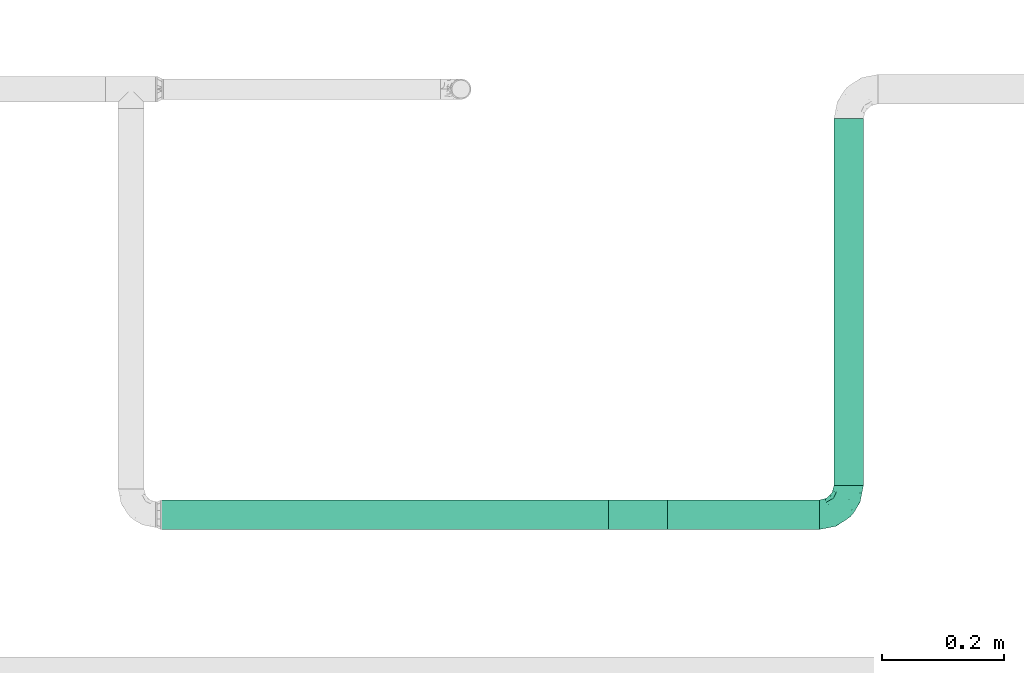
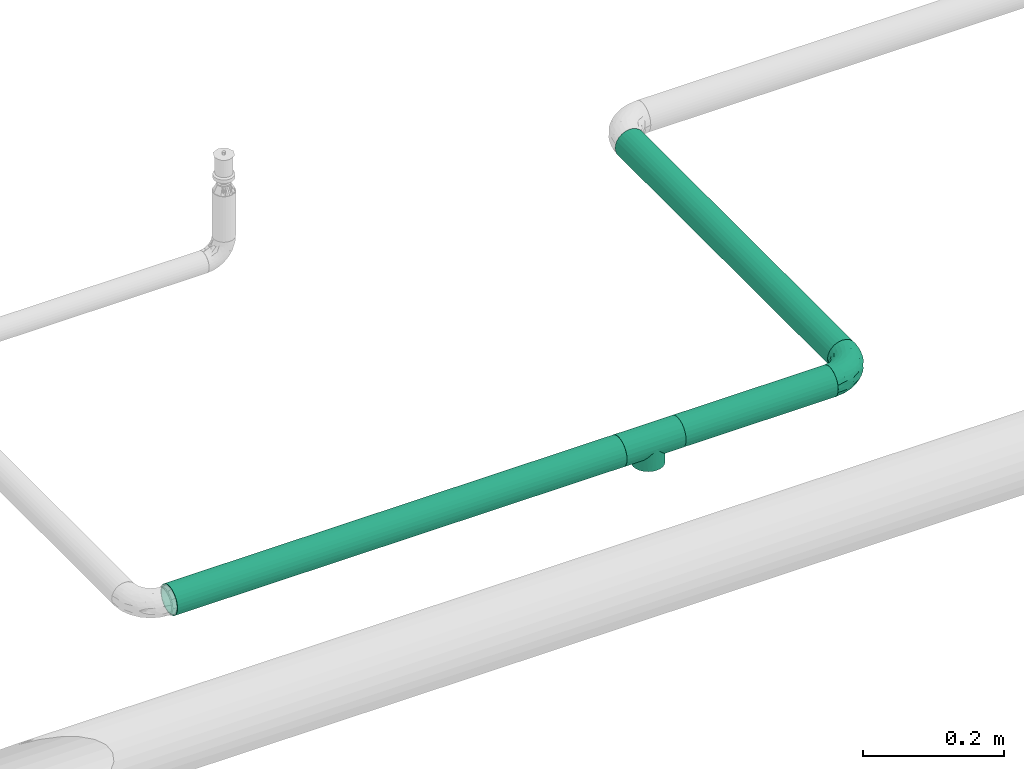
# One storey, part 5 of 94: 3 flow segments, 2 flow fittings.
"""IFC2X3 building model written with IfcOpenShell, lengths in millimetres."""

from ifc_helpers import new_model, entity, si_unit, converted_unit, derived_unit, direction, frame, origin_with_axes, origin_2d_with_axis, place, context, subcontext, project, spatial, hollow_circle, extrude, open_shell, surface_model, source, transform, mapped, type_object, element, save


model = new_model("IFC2X3")

# Units and contexts
model_context = context("Model", 3, precision=0.01, world=frame((0.0, 4.29681676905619e-09, 0.0)), true_north=direction((4.01073788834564e-13, 1.0)))
plan_context = context("Plan", 3, precision=0.01, world=frame((0.0, 4.29681676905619e-09, 0.0)), true_north=direction((4.01073788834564e-13, 1.0)))
body_context = subcontext(model_context, "Body", "Model", "MODEL_VIEW")
ifc_project = project(units=[converted_unit("PLANEANGLEUNIT", "DEGREE", entity("IfcPositiveLengthMeasure", 0.0174532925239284), si_unit("PLANEANGLEUNIT", "RADIAN"), dimensions=[0, 0, 0, 0, 0, 0, 0]), si_unit("AREAUNIT", "SQUARE_METRE"), si_unit("LENGTHUNIT", "METRE", prefix="MILLI"), si_unit("MASSUNIT", "GRAM", prefix="KILO"), si_unit("POWERUNIT", "WATT"), si_unit("PRESSUREUNIT", "PASCAL"), si_unit("FORCEUNIT", "NEWTON", prefix="KILO"), si_unit("ELECTRICCURRENTUNIT", "AMPERE"), si_unit("THERMODYNAMICTEMPERATUREUNIT", "DEGREE_CELSIUS"), si_unit("TIMEUNIT", "SECOND"), si_unit("VOLUMEUNIT", "CUBIC_METRE"), derived_unit("LINEARVELOCITYUNIT", [(si_unit("LENGTHUNIT", "METRE"), 1), (si_unit("TIMEUNIT", "SECOND"), -1)]), derived_unit("VOLUMETRICFLOWRATEUNIT", [(si_unit("VOLUMEUNIT", "CUBIC_METRE"), 1), (si_unit("TIMEUNIT", "SECOND"), -1)]), derived_unit("THERMALTRANSMITTANCEUNIT", [(si_unit("POWERUNIT", "WATT"), 1), (si_unit("THERMODYNAMICTEMPERATUREUNIT", "KELVIN"), -1), (si_unit("AREAUNIT", "SQUARE_METRE"), -1)])], contexts=[model_context, plan_context])

# Site, building, storey
site_placement = place(None, frame((0.0, -4.29681676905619e-09, 0.0), z_axis=(0.0, 0.0, 1.0), x_axis=(1.0, 0.0, 0.0)))
site = spatial("IfcSite", under=ifc_project, at=site_placement, CompositionType="ELEMENT")
building_placement = place(site_placement, frame((0.0, 4.29681676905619e-09, 0.0), z_axis=(0.0, 0.0, 1.0), x_axis=(1.0, 0.0, 0.0)))
building = spatial("IfcBuilding", under=site, at=building_placement, Name="mc-building", CompositionType="ELEMENT")
storey_placement = place(building_placement, frame((0.0, 0.0, 200300.0), z_axis=(0.0, 0.0, 1.0), x_axis=(1.0, 0.0, 0.0)))
storey = spatial("IfcBuildingStorey", under=building, at=storey_placement, Name="Nivå C", CompositionType="ELEMENT", Elevation=200300.0)

# Flow fittings
pipe_fitting_type_1 = type_object("IfcPipeFittingType", Name="magi_pipe_fe_elbow_short_001", PredefinedType="BEND")
shared_shape_1 = source(origin_with_axes(), body_context, "Body", "SurfaceModel", [
    surface_model("IfcShellBasedSurfaceModel", [(-48.4, 6.26342, -23.37541), (-48.4, 0.0, -24.2), (-48.4, 17.11198, -17.11198), (-48.4, 12.1, -20.95781), (-48.4, 23.37541, -6.26342), (-48.4, 20.95781, -12.1), (-48.4, -12.1, -20.95781), (-48.4, -17.11198, -17.11198), (-48.4, -20.95781, -12.1), (-48.4, -6.26342, -23.37541), (-48.4, -23.37541, -6.26342), (-48.4, -24.2, 0.0), (-48.4, -23.37541, 6.26342), (-48.4, 23.37541, 6.26342), (-48.4, 6.26342, 23.37541), (-48.4, 20.95781, 12.1), (-48.4, 17.11198, 17.11198), (-48.4, 12.1, 20.95781), (-48.4, -12.1, 20.95781), (-48.4, -20.95781, 12.1), (-48.4, -17.11198, 17.11198), (-48.4, -6.26342, 23.37541), (-48.4, 0.0, 24.2), (-48.4, 24.2, 0.0), (-17.11198, 48.4, -17.11198), (0.0, 48.4, -24.2), (-6.26342, 48.4, -23.37541), (-12.1, 48.4, -20.95781), (-20.95781, 48.4, -12.1), (-23.37541, 48.4, -6.26342), (12.1, 48.4, -20.95781), (20.95781, 48.4, -12.1), (17.11198, 48.4, -17.11198), (6.26342, 48.4, -23.37541), (23.37541, 48.4, -6.26342), (23.37541, 48.4, 6.26342), (24.2, 48.4, 0.0), (-23.37541, 48.4, 6.26342), (-6.26342, 48.4, 23.37541), (-17.11198, 48.4, 17.11198), (-20.95781, 48.4, 12.1), (-12.1, 48.4, 20.95781), (12.1, 48.4, 20.95781), (17.11198, 48.4, 17.11198), (20.95781, 48.4, 12.1), (0.0, 48.4, 24.2), (6.26342, 48.4, 23.37541), (-24.2, 48.4, 0.0), (-35.50368, -18.80076, 13.58523), (-31.77913, -13.9618, 18.03279), (-34.50859, -21.43683, 0.0), (-21.39243, -15.41147, 12.21413), (-32.16301, -21.12203, 7.54749), (21.12203, 32.16301, 7.54749), (17.07617, 18.95745, 6.20374), (18.67365, 20.61718, 0.0), (-23.65565, 38.62451, 10.51816), (-20.21592, 37.67665, 15.89859), (-35.56981, -9.15108, 21.77256), (-36.96985, -3.20584, 23.78612), (-33.88786, 3.70953, 24.15875), (-8.84062, -10.8048, 0.0), (-18.95745, -17.07617, 6.20374), (-20.61718, -18.67365, 0.0), (-18.69715, -5.87343, 20.10488), (-24.09336, -0.21717, 23.45593), (-2.08262, -4.09091, 10.90396), (-0.40561, 0.49936, 14.45569), (-8.22634, -5.79523, 14.90978), (-37.83027, 20.17367, 15.88169), (-8.41063, 23.79825, 24.15658), (-17.92529, 17.92529, 23.61199), (-14.40991, 10.5752, 24.07534), (-41.86919, 14.6551, 19.71874), (-9.03342, 41.7434, 22.66763), (-3.31671, 36.19978, 24.14056), (-38.63654, 23.65174, 10.51655), (-38.25939, 25.77657, 5.32075), (-30.0475, 30.0475, 9.04616), (-37.30448, 9.49113, 22.86036), (-6.31688, 16.20853, 23.76192), (-12.02449, 4.43954, 22.59792), (-2.47225, 13.07459, 22.23951), (-4.32281, 4.32281, 19.78555), (13.9618, 31.77913, 18.03279), (15.41147, 21.39243, 12.21413), (18.80076, 35.50367, 13.58523), (-25.72741, 16.42033, 22.38358), (-26.59277, 10.36599, 23.76692), (3.20584, 36.96985, 23.78612), (9.15107, 35.56981, 21.77256), (5.87343, 18.69715, 20.10488), (21.43683, 34.50859, 0.0), (-23.74657, 5.93004, 24.18967), (-22.40302, 25.55556, 19.88516), (-33.3245, 16.42738, 20.3789), (-25.47357, 39.04012, 5.19167), (-30.32947, 31.74105, 4.25904), (11.04589, 19.60124, 16.55181), (-27.44219, 36.3, 0.0), (-10.46605, 32.79159, 23.04712), (-13.80953, 25.05111, 23.26361), (-17.54489, 31.27863, 20.33941), (-19.27982, 23.42922, 22.01925), (-14.78447, 40.57947, 19.81913), (-19.60124, -11.04589, 16.55181), (-25.09785, 32.07921, 13.69695), (-25.5093, 27.02629, 17.14196), (-31.08127, 26.00324, 13.49448), (0.21717, 24.09336, 23.45593), (5.51075, 8.40547, 15.32867), (-11.48597, -10.80284, 11.35932), (1.43689, -3.14326, 6.54995), (7.34882, 4.31024, 8.4514), (7.50574, 2.51208, 3.62663), (12.46453, 10.09451, 5.71609), (12.1504, 12.55391, 10.15678), (-36.3, 27.44219, 0.0), (-6.52237, -9.62364, 7.02633), (2.93595, -2.93595, 0.0), (10.8048, 8.84062, 0.0), (-19.60124, -11.04589, -16.55181), (-31.77913, -13.9618, -18.03279), (-18.69715, -5.87343, -20.10488), (-21.39243, -15.41147, -12.21413), (-37.67665, 20.21591, -15.89859), (-40.57947, 14.78447, -19.81913), (-39.04012, 25.47357, -5.19167), (-32.16301, -21.12203, -7.54749), (-30.0475, 30.0475, -9.04616), (-38.62452, 23.65565, -10.51816), (-18.95745, -17.07617, -6.20374), (-23.42922, 19.27982, -22.01926), (-25.05111, 13.80953, -23.26361), (-31.27863, 17.54489, -20.33941), (-14.6551, 41.86919, -19.71874), (-20.17367, 37.83026, -15.88169), (9.15108, 35.56981, -21.77256), (5.87343, 18.69715, -20.10488), (0.21717, 24.09336, -23.45593), (-41.7434, 9.03342, -22.66763), (-35.50368, -18.80076, -13.58523), (-35.56981, -9.15108, -21.77256), (-16.42033, 25.72741, -22.38358), (-9.49113, 37.30447, -22.86036), (-10.36599, 26.59277, -23.76692), (-36.96985, -3.20584, -23.78612), (-23.79826, 8.41063, -24.15658), (-17.92529, 17.92529, -23.61199), (-10.5752, 14.40991, -24.07534), (-36.19978, 3.31671, -24.14056), (-25.77657, 38.25939, -5.32075), (-23.65174, 38.63654, -10.51655), (-32.79159, 10.46605, -23.04712), (-31.74105, 30.32946, -4.25904), (-5.93004, 23.74657, -24.18967), (-25.55556, 22.40302, -19.88516), (-16.42738, 33.3245, -20.3789), (3.20584, 36.96985, -23.78612), (-3.70953, 33.88785, -24.15875), (18.80076, 35.50367, -13.58523), (13.9618, 31.77913, -18.03279), (7.50574, 2.51208, -3.62663), (12.46453, 10.09451, -5.71609), (-16.20853, 6.31688, -23.76192), (-4.43954, 12.02449, -22.59792), (-13.07459, 2.47225, -22.23951), (1.43689, -3.14326, -6.54995), (-6.52237, -9.62364, -7.02632), (-2.08262, -4.09091, -10.90396), (15.41147, 21.39243, -12.21413), (21.12203, 32.16301, -7.54749), (17.07617, 18.95745, -6.20374), (-32.07921, 25.09785, -13.69695), (11.04589, 19.60124, -16.55181), (12.1504, 12.55391, -10.15678), (5.51075, 8.40547, -15.32867), (-27.02629, 25.5093, -17.14196), (-26.00324, 31.08127, -13.49448), (-24.09336, -0.21717, -23.45593), (-4.32281, 4.32281, -19.78555), (-8.22634, -5.79524, -14.90978), (-11.48597, -10.80284, -11.35931), (-0.40561, 0.49936, -14.45569), (7.34882, 4.31024, -8.4514)], [open_shell([[[0, 1, 2]], [[3, 0, 2]], [[4, 5, 2]], [[6, 2, 1]], [[4, 2, 6]], [[7, 8, 6]], [[1, 9, 6]], [[8, 10, 6]], [[6, 10, 4]], [[11, 12, 10]], [[13, 4, 10]], [[14, 13, 10]], [[15, 13, 16]], [[13, 14, 17]], [[16, 13, 17]], [[10, 18, 14]], [[19, 20, 12]], [[20, 10, 12]], [[21, 22, 18]], [[20, 18, 10]], [[18, 22, 14]], [[23, 4, 13]], [[24, 25, 26]], [[24, 26, 27]], [[24, 28, 29]], [[25, 24, 30]], [[30, 24, 29]], [[30, 31, 32]], [[30, 33, 25]], [[30, 34, 31]], [[29, 34, 30]], [[34, 35, 36]], [[34, 29, 37]], [[34, 37, 38]], [[39, 37, 40]], [[41, 38, 37]], [[41, 37, 39]], [[38, 42, 34]], [[35, 43, 44]], [[35, 34, 43]], [[42, 45, 46]], [[34, 42, 43]], [[38, 45, 42]], [[37, 29, 47]], [[20, 48, 49]], [[12, 11, 50]], [[51, 48, 52]], [[53, 54, 55]], [[48, 20, 19]], [[12, 52, 19]], [[40, 56, 57]], [[49, 18, 20]], [[49, 58, 18]], [[22, 59, 60]], [[61, 62, 63]], [[58, 64, 65]], [[66, 67, 68]], [[15, 16, 69]], [[70, 71, 72]], [[17, 73, 16]], [[21, 59, 22]], [[38, 74, 75]], [[22, 60, 14]], [[15, 69, 76]], [[16, 73, 69]], [[23, 13, 77]], [[13, 15, 76]], [[77, 76, 78]], [[14, 79, 17]], [[80, 81, 82]], [[68, 83, 64]], [[84, 43, 42]], [[85, 86, 84]], [[87, 79, 88]], [[18, 58, 21]], [[45, 89, 46]], [[53, 35, 44]], [[45, 38, 75]], [[84, 90, 91]], [[44, 86, 53]], [[92, 35, 53]], [[86, 44, 43]], [[90, 42, 46]], [[53, 55, 92]], [[88, 93, 72]], [[54, 53, 85]], [[87, 94, 95]], [[78, 96, 97]], [[98, 84, 91]], [[99, 96, 47]], [[79, 14, 60]], [[96, 78, 56]], [[62, 52, 63]], [[57, 39, 40]], [[100, 70, 75]], [[101, 102, 103]], [[12, 50, 52]], [[104, 41, 39]], [[74, 38, 41]], [[57, 102, 104]], [[105, 64, 49]], [[90, 84, 42]], [[40, 37, 56]], [[56, 106, 57]], [[102, 57, 107]], [[95, 107, 69]], [[76, 108, 78]], [[100, 101, 70]], [[89, 75, 109]], [[64, 58, 49]], [[63, 52, 50]], [[59, 58, 65]], [[105, 49, 51]], [[64, 83, 81]], [[89, 90, 46]], [[36, 35, 92]], [[109, 82, 91]], [[109, 91, 90]], [[91, 83, 110]], [[111, 68, 105]], [[66, 68, 111]], [[62, 51, 52]], [[66, 112, 113]], [[114, 115, 113]], [[98, 85, 84]], [[52, 48, 19]], [[49, 48, 51]], [[84, 86, 43]], [[53, 86, 85]], [[88, 79, 60]], [[73, 79, 95]], [[96, 56, 37]], [[78, 108, 106]], [[87, 103, 94]], [[100, 74, 104]], [[108, 69, 107]], [[78, 97, 77]], [[88, 72, 71]], [[109, 75, 70]], [[81, 72, 65]], [[70, 72, 80]], [[75, 89, 45]], [[90, 89, 109]], [[58, 59, 21]], [[60, 59, 65]], [[67, 83, 68]], [[110, 113, 116]], [[88, 60, 93]], [[87, 88, 71]], [[103, 87, 71]], [[79, 87, 95]], [[101, 103, 71]], [[94, 103, 102]], [[47, 96, 37]], [[96, 99, 97]], [[99, 117, 97]], [[97, 117, 77]], [[23, 77, 117]], [[13, 76, 77]], [[60, 65, 93]], [[65, 72, 93]], [[70, 101, 71]], [[102, 101, 100]], [[69, 108, 76]], [[106, 108, 107]], [[57, 106, 107]], [[78, 106, 56]], [[57, 104, 39]], [[100, 104, 102]], [[102, 107, 94]], [[95, 94, 107]], [[64, 81, 65]], [[82, 81, 83]], [[91, 82, 83]], [[80, 82, 109]], [[70, 80, 109]], [[81, 80, 72]], [[79, 73, 17]], [[69, 73, 95]], [[104, 74, 41]], [[75, 74, 100]], [[62, 61, 118]], [[111, 62, 118]], [[113, 115, 116]], [[119, 118, 61]], [[111, 105, 51]], [[113, 112, 114]], [[120, 55, 54]], [[68, 64, 105]], [[91, 110, 98]], [[116, 98, 110]], [[62, 111, 51]], [[66, 111, 118]], [[112, 66, 118]], [[67, 113, 110]], [[118, 119, 112]], [[114, 112, 119]], [[119, 120, 114]], [[115, 120, 54]], [[120, 115, 114]], [[116, 54, 85]], [[54, 116, 115]], [[116, 85, 98]], [[113, 67, 66]], [[83, 67, 110]], [[121, 122, 123]], [[122, 121, 124]], [[5, 125, 2]], [[2, 126, 3]], [[117, 127, 23]], [[50, 10, 128]], [[127, 129, 130]], [[128, 131, 63]], [[132, 133, 134]], [[24, 135, 136]], [[137, 138, 139]], [[3, 140, 0]], [[128, 8, 141]], [[142, 6, 9]], [[128, 63, 50]], [[5, 4, 130]], [[8, 7, 141]], [[143, 144, 145]], [[146, 9, 1]], [[147, 148, 149]], [[8, 128, 10]], [[124, 141, 122]], [[150, 1, 0]], [[151, 152, 129]], [[125, 134, 126]], [[153, 147, 150]], [[127, 154, 129]], [[145, 155, 149]], [[47, 29, 151]], [[143, 156, 157]], [[152, 29, 28]], [[25, 158, 159]], [[122, 7, 6]], [[24, 27, 135]], [[144, 27, 26]], [[32, 160, 161]], [[25, 33, 158]], [[120, 162, 163]], [[130, 125, 5]], [[24, 136, 28]], [[0, 140, 150]], [[30, 161, 137]], [[142, 122, 6]], [[25, 159, 26]], [[164, 165, 166]], [[167, 168, 169]], [[31, 160, 32]], [[161, 30, 32]], [[170, 160, 171]], [[131, 128, 124]], [[36, 92, 34]], [[34, 92, 171]], [[172, 171, 55]], [[34, 171, 31]], [[144, 26, 159]], [[130, 173, 125]], [[174, 175, 176]], [[136, 152, 28]], [[30, 137, 33]], [[122, 142, 123]], [[134, 125, 177]], [[157, 177, 136]], [[152, 178, 129]], [[153, 133, 147]], [[146, 150, 179]], [[146, 142, 9]], [[11, 10, 50]], [[179, 166, 123]], [[179, 123, 142]], [[123, 180, 181]], [[138, 137, 161]], [[55, 171, 92]], [[158, 137, 139]], [[174, 161, 170]], [[138, 180, 165]], [[180, 138, 176]], [[124, 121, 182]], [[176, 183, 180]], [[61, 131, 168]], [[169, 168, 182]], [[172, 170, 171]], [[122, 141, 7]], [[128, 141, 124]], [[171, 160, 31]], [[161, 160, 170]], [[145, 144, 159]], [[135, 144, 157]], [[127, 130, 4]], [[129, 178, 173]], [[143, 132, 156]], [[153, 140, 126]], [[178, 136, 177]], [[129, 154, 151]], [[145, 149, 148]], [[179, 150, 147]], [[165, 149, 139]], [[147, 149, 164]], [[150, 146, 1]], [[142, 146, 179]], [[137, 158, 33]], [[159, 158, 139]], [[174, 138, 161]], [[184, 169, 183]], [[145, 159, 155]], [[143, 145, 148]], [[132, 143, 148]], [[144, 143, 157]], [[133, 132, 148]], [[156, 132, 134]], [[23, 127, 4]], [[127, 117, 154]], [[117, 99, 154]], [[154, 99, 151]], [[47, 151, 99]], [[29, 152, 151]], [[159, 139, 155]], [[139, 149, 155]], [[147, 133, 148]], [[134, 133, 153]], [[136, 178, 152]], [[173, 178, 177]], [[125, 173, 177]], [[129, 173, 130]], [[125, 126, 2]], [[153, 126, 134]], [[134, 177, 156]], [[157, 156, 177]], [[138, 165, 139]], [[166, 165, 180]], [[123, 166, 180]], [[164, 166, 179]], [[147, 164, 179]], [[165, 164, 149]], [[144, 135, 27]], [[136, 135, 157]], [[126, 140, 3]], [[150, 140, 153]], [[182, 131, 124]], [[168, 119, 61]], [[119, 167, 162]], [[63, 131, 61]], [[172, 163, 175]], [[172, 55, 120]], [[123, 181, 121]], [[182, 121, 181]], [[175, 174, 170]], [[176, 138, 174]], [[169, 182, 181]], [[131, 182, 168]], [[183, 169, 181]], [[167, 169, 184]], [[162, 167, 184]], [[119, 168, 167]], [[163, 162, 184]], [[120, 119, 162]], [[175, 163, 184]], [[120, 163, 172]], [[176, 175, 184]], [[172, 175, 170]], [[180, 183, 181]], [[184, 183, 176]]])]),
])
flow_fitting_1_placement = place(storey_placement, frame((531141.18385, 406303.74497, 2850.0), z_axis=(0.0, 0.0, 1.0), x_axis=(1.0, 0.0, 0.0)))
element("IfcFlowFitting", 1, at=flow_fitting_1_placement, inside=storey, type_object=pipe_fitting_type_1, Name="magi_pipe_fe_elbow_short_001", context=body_context, shape_type="MappedRepresentation", body=[
    mapped(shared_shape_1, transform((0.0, 0.0, 0.0), scale=1.0)),
])
pipe_fitting_type_2 = type_object("IfcPipeFittingType", Name="magi_pipe_fe_tee_centric_90_NOR", PredefinedType="JUNCTION")
shared_shape_2 = source(origin_with_axes(), body_context, "Body", "SurfaceModel", [
    surface_model("IfcShellBasedSurfaceModel", [(-48.4, 12.1, -20.95781), (-48.4, 6.26342, -23.37541), (-48.4, 17.11198, -17.11198), (-48.4, -20.95781, 12.1), (-48.4, -17.11198, 17.11198), (-48.4, -23.37541, 6.26342), (-48.4, 0.0, -24.2), (-48.4, -6.26342, -23.37541), (-48.4, 20.95781, -12.1), (-48.4, -23.37541, -6.26342), (-48.4, 23.37541, -6.26342), (-48.4, -12.1, -20.95781), (-48.4, -17.11198, -17.11198), (-48.4, -20.95781, -12.1), (-48.4, -24.2, 0.0), (-48.4, 20.95781, 12.1), (-48.4, 23.37541, 6.26342), (-48.4, 24.2, 0.0), (-48.4, 12.1, 20.95781), (-48.4, 17.11198, 17.11198), (-48.4, 6.26342, 23.37541), (-48.4, -12.1, 20.95781), (-48.4, -6.26342, 23.37541), (-48.4, 0.0, 24.2), (48.4, 6.26342, -23.37541), (48.4, -6.26342, -23.37541), (48.4, 0.0, -24.2), (48.4, 17.11198, -17.11198), (48.4, 12.1, -20.95781), (48.4, -23.37541, -6.26342), (48.4, 20.95781, -12.1), (48.4, 23.37541, -6.26342), (48.4, -17.11198, -17.11198), (48.4, -12.1, -20.95781), (48.4, -20.95781, -12.1), (48.4, -24.2, 0.0), (48.4, 24.2, 0.0), (48.4, 23.37541, 6.26342), (48.4, 20.95781, 12.1), (48.4, -23.37541, 6.26342), (48.4, -17.11198, 17.11198), (48.4, 12.1, 20.95781), (48.4, 17.11198, 17.11198), (48.4, 6.26342, 23.37541), (48.4, -20.95781, 12.1), (48.4, -12.1, 20.95781), (48.4, 0.0, 24.2), (48.4, -6.26342, 23.37541), (23.32218, -23.32218, 6.45878), (24.2, -24.2, 0.0), (20.94524, -20.94524, 12.12176), (13.56365, -13.56365, 20.04164), (17.56065, -17.56065, 16.65123), (-24.2, -24.2, 0.0), (-23.32218, -23.32218, 6.45878), (-20.94524, -20.94524, 12.12176), (-17.56065, -17.56065, 16.65123), (-13.56365, -13.56365, 20.04164), (-9.20594, -9.20594, 22.38059), (9.20594, -9.20594, 22.38059), (4.647, -4.647, 23.74964), (0.0, 0.0, 24.2), (-4.647, -4.647, 23.74964), (4.647, -4.647, -23.74964), (0.0, 0.0, -24.2), (-4.647, -4.647, -23.74964), (-9.20594, -9.20594, -22.38059), (9.20594, -9.20594, -22.38059), (13.56365, -13.56365, -20.04164), (17.56065, -17.56065, -16.65123), (20.94524, -20.94524, -12.12176), (23.32218, -23.32218, -6.45878), (-13.56365, -13.56365, -20.04164), (-17.56065, -17.56065, -16.65123), (-23.32218, -23.32218, -6.45878), (-20.94524, -20.94524, -12.12176), (0.0, -36.3, -24.2), (6.26342, -36.3, -23.37541), (12.1, -36.3, -20.95781), (12.1, -36.3, 20.95781), (17.11198, -36.3, -17.11198), (20.95781, -36.3, -12.1), (23.37541, -36.3, -6.26342), (-12.1, -36.3, -20.95781), (-20.95781, -36.3, -12.1), (-17.11198, -36.3, -17.11198), (-6.26342, -36.3, -23.37541), (-23.37541, -36.3, -6.26342), (-24.2, -36.3, 0.0), (24.2, -36.3, 0.0), (23.37541, -36.3, 6.26342), (20.95781, -36.3, 12.1), (-23.37541, -36.3, 6.26342), (17.11198, -36.3, 17.11198), (6.26342, -36.3, 23.37541), (-17.11198, -36.3, 17.11198), (-20.95781, -36.3, 12.1), (-12.1, -36.3, 20.95781), (0.0, -36.3, 24.2), (-6.26342, -36.3, 23.37541)], [open_shell([[[0, 1, 2]], [[3, 4, 5]], [[6, 7, 1]], [[8, 1, 9]], [[2, 1, 8]], [[10, 8, 9]], [[11, 12, 7]], [[13, 7, 12]], [[7, 13, 1]], [[13, 9, 1]], [[9, 14, 10]], [[14, 5, 10]], [[15, 16, 17]], [[15, 17, 5]], [[18, 19, 4]], [[5, 19, 15]], [[20, 18, 4]], [[4, 19, 5]], [[21, 22, 4]], [[23, 4, 22]], [[4, 23, 20]], [[10, 5, 17]], [[24, 25, 26]], [[27, 24, 28]], [[29, 24, 30]], [[30, 24, 27]], [[29, 30, 31]], [[25, 32, 33]], [[32, 25, 34]], [[24, 34, 25]], [[24, 29, 34]], [[31, 35, 29]], [[31, 36, 35]], [[36, 37, 38]], [[39, 36, 38]], [[40, 38, 41]], [[41, 38, 42]], [[40, 41, 43]], [[39, 40, 44]], [[39, 38, 40]], [[45, 46, 47]], [[46, 45, 40]], [[43, 46, 40]], [[36, 39, 35]], [[39, 44, 48]], [[35, 39, 49]], [[49, 39, 48]], [[44, 50, 48]], [[40, 45, 51]], [[50, 44, 52]], [[51, 52, 40]], [[52, 44, 40]], [[53, 54, 5]], [[53, 5, 14]], [[5, 54, 3]], [[54, 55, 3]], [[56, 57, 4]], [[4, 3, 56]], [[4, 57, 21]], [[56, 3, 55]], [[21, 57, 58]], [[51, 45, 59]], [[60, 46, 61]], [[59, 47, 60]], [[47, 59, 45]], [[60, 47, 46]], [[61, 46, 43]], [[38, 37, 16]], [[19, 41, 42]], [[15, 42, 38]], [[43, 41, 18]], [[17, 37, 36]], [[62, 61, 23]], [[62, 22, 58]], [[22, 62, 23]], [[58, 22, 21]], [[61, 20, 23]], [[43, 20, 61]], [[18, 20, 43]], [[18, 41, 19]], [[15, 19, 42]], [[16, 15, 38]], [[37, 17, 16]], [[27, 2, 30]], [[31, 10, 36]], [[31, 30, 8]], [[0, 27, 28]], [[26, 25, 63]], [[26, 64, 24]], [[64, 26, 63]], [[28, 24, 1]], [[64, 1, 24]], [[10, 31, 8]], [[30, 2, 8]], [[2, 27, 0]], [[36, 10, 17]], [[65, 66, 7]], [[6, 1, 64]], [[6, 65, 7]], [[66, 11, 7]], [[1, 0, 28]], [[6, 64, 65]], [[63, 25, 67]], [[33, 32, 68]], [[69, 68, 32]], [[34, 70, 69]], [[69, 32, 34]], [[33, 68, 67]], [[29, 35, 49]], [[29, 71, 34]], [[71, 29, 49]], [[34, 71, 70]], [[72, 11, 66]], [[72, 12, 11]], [[12, 72, 73]], [[12, 73, 13]], [[74, 53, 9]], [[75, 74, 13]], [[74, 9, 13]], [[9, 53, 14]], [[75, 13, 73]], [[33, 67, 25]], [[76, 77, 78]], [[79, 76, 78]], [[80, 81, 82]], [[80, 82, 78]], [[79, 83, 76]], [[83, 84, 85]], [[83, 86, 76]], [[83, 87, 84]], [[87, 83, 88]], [[83, 79, 88]], [[89, 78, 82]], [[89, 90, 91]], [[89, 91, 79]], [[79, 92, 88]], [[79, 91, 93]], [[92, 79, 94]], [[92, 95, 96]], [[92, 94, 95]], [[97, 98, 99]], [[98, 97, 95]], [[94, 98, 95]], [[79, 78, 89]], [[88, 92, 53]], [[54, 53, 92]], [[95, 97, 57]], [[54, 92, 96]], [[95, 56, 96]], [[58, 97, 99]], [[55, 54, 96]], [[56, 55, 96]], [[58, 57, 97]], [[98, 61, 62]], [[58, 99, 62]], [[56, 95, 57]], [[62, 99, 98]], [[60, 98, 94]], [[79, 59, 94]], [[91, 90, 48]], [[52, 93, 91]], [[51, 79, 93]], [[49, 90, 89]], [[59, 60, 94]], [[51, 59, 79]], [[49, 48, 90]], [[50, 52, 91]], [[48, 50, 91]], [[51, 93, 52]], [[98, 60, 61]], [[89, 82, 49]], [[71, 49, 82]], [[69, 81, 80]], [[80, 78, 68]], [[81, 71, 82]], [[67, 78, 77]], [[70, 71, 81]], [[69, 70, 81]], [[67, 68, 78]], [[76, 64, 63]], [[67, 77, 63]], [[69, 80, 68]], [[63, 77, 76]], [[65, 76, 86]], [[83, 66, 86]], [[84, 87, 74]], [[73, 85, 84]], [[72, 83, 85]], [[53, 87, 88]], [[66, 65, 86]], [[72, 66, 83]], [[53, 74, 87]], [[75, 73, 84]], [[74, 75, 84]], [[72, 85, 73]], [[76, 65, 64]]])]),
])
flow_fitting_2_placement = place(storey_placement, frame((530794.93912, 406303.74497, 2850.0), z_axis=(0.0, 1.0, 0.0), x_axis=(-1.0, 0.0, 0.0)))
element("IfcFlowFitting", 2, at=flow_fitting_2_placement, inside=storey, type_object=pipe_fitting_type_2, Name="magi_pipe_fe_tee_centric_90_NOR", context=body_context, shape_type="MappedRepresentation", body=[
    mapped(shared_shape_2, transform((0.0, 0.0, 0.0), scale=1.0)),
])

# Flow segments
pipe_segment_type = type_object("IfcPipeSegmentType", Name="Stålrør normaltykke", PredefinedType="RIGIDSEGMENT")
shared_shape_3 = source(origin_with_axes(), body_context, "Body", "SweptSolid", [
    extrude(hollow_circle(Radius=24.1, WallThickness=2.0, at=origin_2d_with_axis()), frame((0.0, 0.0, 0.0), z_axis=(1.0, 0.0, 0.0), x_axis=(0.0, 1.0, 0.0)), (0.0, 0.0, 1.0), 249.4),
])
flow_segment_1_placement = place(storey_placement, frame((530843.33912, 406303.74497, 2850.0), z_axis=(0.0, 0.0, 1.0), x_axis=(1.0, 0.0, 0.0)))
element("IfcFlowSegment", 3, at=flow_segment_1_placement, inside=storey, type_object=pipe_segment_type, Name="Stålrør normaltykke", context=body_context, shape_type="MappedRepresentation", body=[
    mapped(shared_shape_3, transform((0.0, 0.0, 0.0), scale=1.0)),
])
shared_shape_4 = source(origin_with_axes(), body_context, "Body", "SweptSolid", [
    extrude(hollow_circle(Radius=24.1, WallThickness=2.0, at=origin_2d_with_axis()), frame((0.0, 0.0, 0.0), z_axis=(1.0, 0.0, 0.0), x_axis=(0.0, 1.0, 0.0)), (0.0, 0.0, 1.0), 603.2),
])
flow_segment_2_placement = place(storey_placement, frame((531141.18385, 406352.14497, 2850.0), z_axis=(0.0, 0.0, 1.0), x_axis=(0.0, 1.0, 0.0)))
element("IfcFlowSegment", 4, at=flow_segment_2_placement, inside=storey, type_object=pipe_segment_type, Name="Stålrør normaltykke", context=body_context, shape_type="MappedRepresentation", body=[
    mapped(shared_shape_4, transform((0.0, 0.0, 0.0), scale=1.0)),
])
shared_shape_5 = source(origin_with_axes(), body_context, "Body", "SweptSolid", [
    extrude(hollow_circle(Radius=24.1, WallThickness=2.0, at=origin_2d_with_axis()), frame((0.0, 0.0, 0.0), z_axis=(1.0, 0.0, 0.0), x_axis=(0.0, 1.0, 0.0)), (0.0, 0.0, 1.0), 737.0),
])
flow_segment_3_placement = place(storey_placement, frame((530009.58385, 406303.74497, 2850.0), z_axis=(0.0, 0.0, 1.0), x_axis=(1.0, 0.0, 0.0)))
element("IfcFlowSegment", 5, at=flow_segment_3_placement, inside=storey, type_object=pipe_segment_type, Name="Stålrør normaltykke", context=body_context, shape_type="MappedRepresentation", body=[
    mapped(shared_shape_5, transform((0.0, 0.0, 0.0), scale=1.0)),
])

save(model, "model.ifc")
